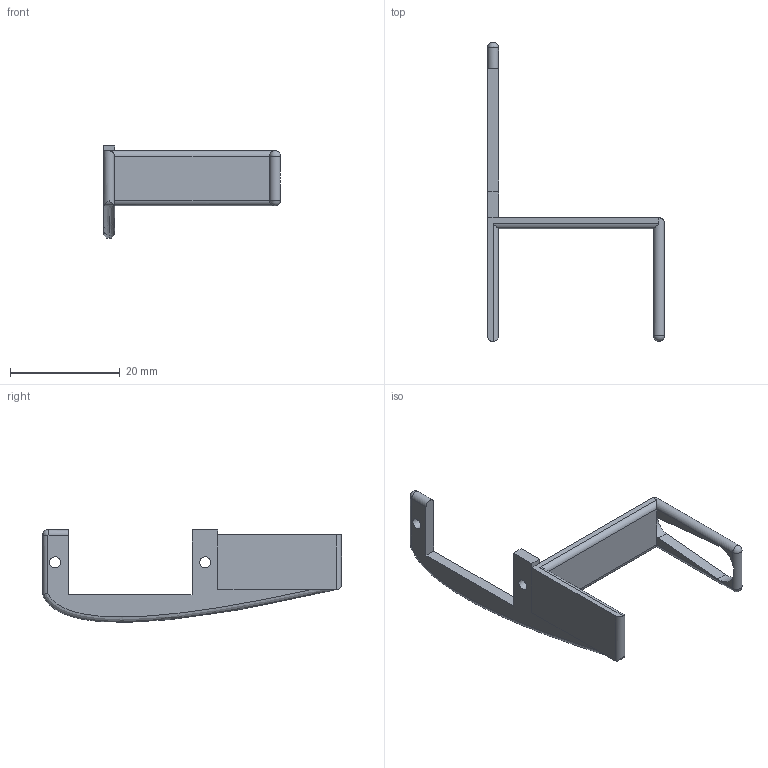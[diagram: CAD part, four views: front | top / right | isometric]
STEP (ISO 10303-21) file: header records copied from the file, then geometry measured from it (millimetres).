
FILE_DESCRIPTION(/* description */ ('STEP AP242 Edition 2','CAx-IF Rec.Pracs.---Representation and Presentation of Product Manufacturing Information (PMI)---4.0---2014-10-13','CAx-IF Rec.Pracs.---3D Tessellated Geometry---0.4---2014-09-14','2;1','CAx-IF Rec.Pracs.---User Defined Attributes---1.5---2016-08-15'),/* implementation_level */ '2;1');
FILE_NAME(/* name */ 'Assembly 1 - Part 1 (82)',/* time_stamp */ '2026-06-04T16:20:02Z',/* author */ (''),/* organization */ (''),/* preprocessor_version */ 'ST-DEVELOPER v20',/* originating_system */ 'ONSHAPE BY PTC INC, 1.215',/* authorisation */ ' ');
FILE_SCHEMA (('AP242_MANAGED_MODEL_BASED_3D_ENGINEERING_MIM_LF { 1 0 10303 442 3 1 4 }'));
Length unit declared in the file: metre
Products named in the file (1): Part 1
Bounding box: 32.2 x 54.4 x 16.87 mm (x, y, z)
Volume: 1720.5 mm3; surface area: 2290.7 mm2
Topology: 1 solids, 1 shells, 42 faces, 115 edges, 69 vertices
Faces by surface type: plane 21, cylinder 16, sphere 3, bspline 2
Full cylindrical faces by diameter (mm): 2 x2
Entity records: 1460 total; most frequent: CARTESIAN_POINT 413, ORIENTED_EDGE 214, DIRECTION 210, EDGE_CURVE 107, AXIS2_PLACEMENT_3D 72, VERTEX_POINT 67, LINE 66, VECTOR 66
